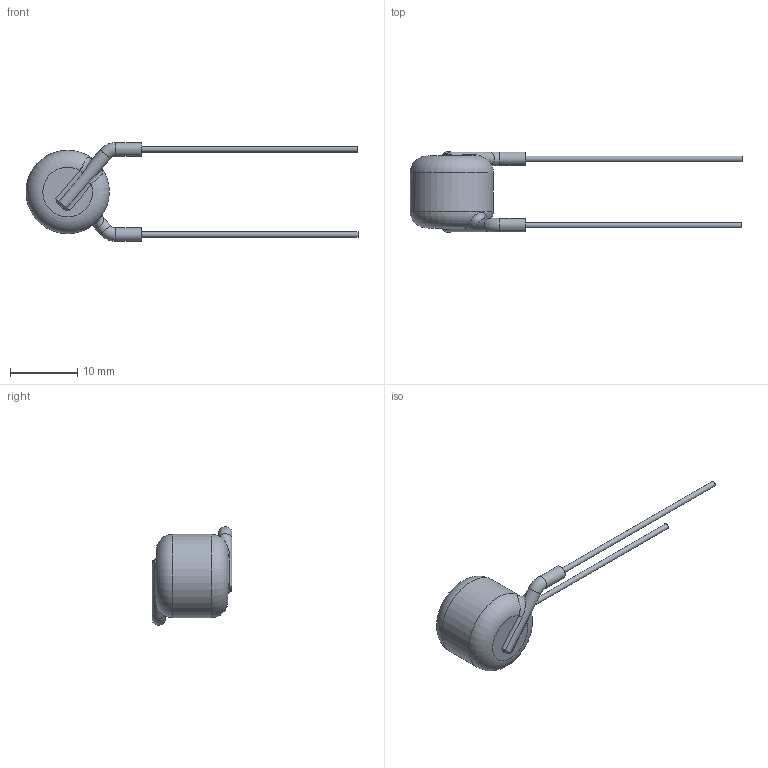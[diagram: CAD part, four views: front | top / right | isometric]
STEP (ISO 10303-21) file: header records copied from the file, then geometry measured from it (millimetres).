
FILE_DESCRIPTION((''),'2;1');
FILE_NAME('I:\Marketing\M6t1\3D-Models\Zchng-Werk-3\Upload for homepage\Ceramite\T3M-15kV\615R150GATT10\615R150GATT10.stp','2015-08-28T15:23:43',(''),(''),'Autodesk Inventor 2013','Autodesk Inventor 2013','');
FILE_SCHEMA(('AUTOMOTIVE_DESIGN { 1 0 10303 214 1 1 1 1 }'));
Length unit declared in the file: centimetre
Products named in the file (1): 615R150GATT10
Bounding box: 49.4 x 11.9 x 14.7 mm (x, y, z)
Volume: 1297.7 mm3; surface area: 842 mm2
Topology: 1 solids, 1 shells, 42 faces, 94 edges, 52 vertices
Faces by surface type: cylinder 13, torus 11, bspline 10, plane 8
Full cylindrical faces by diameter (mm): 0.81 x2, 2 x4, 12.4 x1
Entity records: 1467 total; most frequent: CARTESIAN_POINT 634, DIRECTION 152, ORIENTED_EDGE 140, AXIS2_PLACEMENT_3D 70, EDGE_CURVE 70, EDGE_LOOP 54, VERTEX_POINT 44, STYLED_ITEM 42
